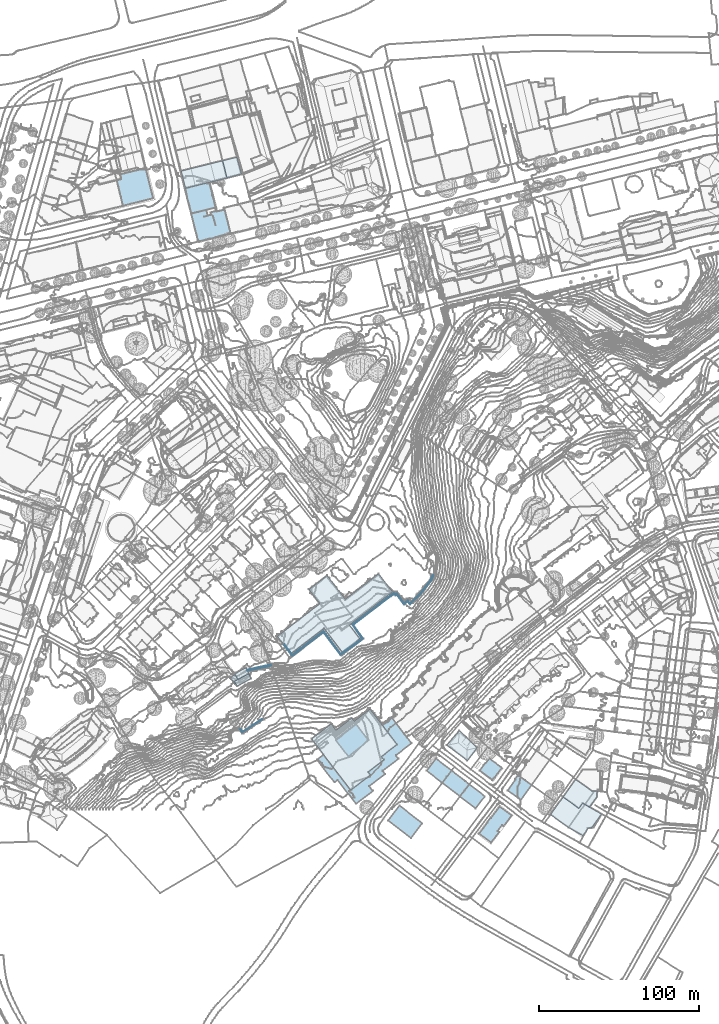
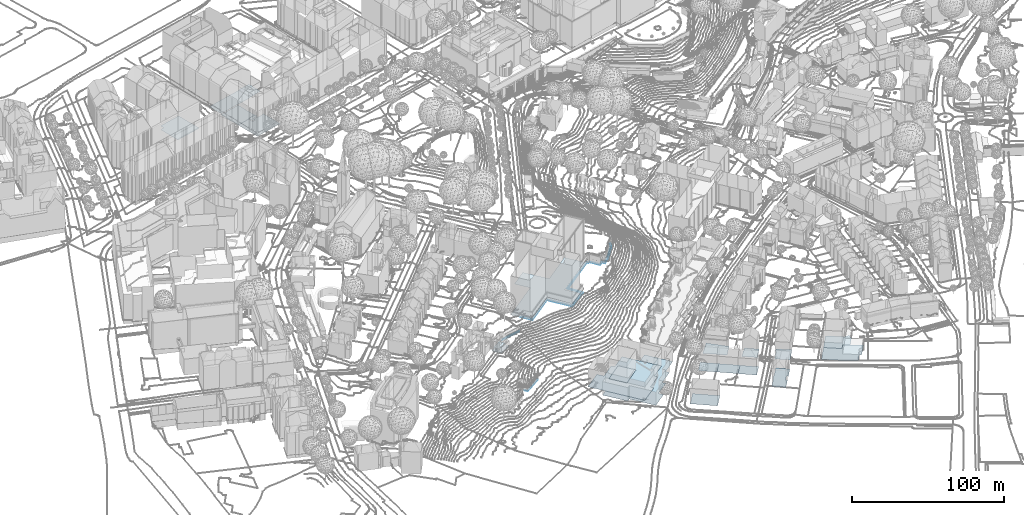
# Not in any storey, part 6 of 477: 23 footings.
"""IFC4 building model written with IfcOpenShell, lengths in metres."""

import ifcopenshell
import ifcopenshell.guid

model = None  # the IFC model being written
_history = None  # IfcOwnerHistory: only IFC2X3 demands one
_inside = {}  # id of a spatial element -> (the spatial element, [elements in it])
_under = {}  # id of a project, library or spatial element -> (it, [spatial elements below it])
_declared = {}  # id of a project -> (the project, [libraries it declares])
_typed = {}  # id of a type object -> (the type object, [elements of that type])
_made_of = {}  # id of a material, layer set ... -> (it, [elements and type objects made of it])


def new_model(schema):
    """Start an empty IFC model of exactly this schema.

    Asked for "IFC4X3", IfcOpenShell would pick the latest addendum, in which some entities
    have other attributes; the version numbers below select the first issue.
    IFC2X3 requires an IfcOwnerHistory on every rooted entity: one is made here for all.
    """
    global model, _history
    if schema == "IFC4X3":
        model = ifcopenshell.file(schema_version=(4, 3, 0, 0))
    else:
        model = ifcopenshell.file(schema=schema)
    _inside.clear()
    _under.clear()
    _declared.clear()
    _typed.clear()
    _made_of.clear()
    _history = None
    if model.schema == "IFC2X3":
        org = make("IfcOrganization", Name="unknown")
        user = make(
            "IfcPersonAndOrganization",
            ThePerson=make("IfcPerson", FamilyName="unknown"),
            TheOrganization=org,
        )
        app = make(
            "IfcApplication",
            ApplicationDeveloper=org,
            Version="unknown",
            ApplicationFullName="unknown",
            ApplicationIdentifier="unknown",
        )
        _history = make(
            "IfcOwnerHistory",
            OwningUser=user,
            OwningApplication=app,
            ChangeAction="ADDED",
            CreationDate=0,
        )
    return model


def make(cls, **values):
    """One entity of the class cls with the attributes given. An attribute that is None is left unset."""
    return model.create_entity(
        cls, **{name: value for name, value in values.items() if value is not None}
    )


def rooted(cls, **values):
    """An entity with a GlobalId (a new one), such as an element, a storey or a relation."""
    return make(cls, GlobalId=ifcopenshell.guid.new(), OwnerHistory=_history, **values)


def si_unit(unit_type, name, prefix=None):
    """IfcSIUnit, for example si_unit("LENGTHUNIT", "METRE", prefix="MILLI")."""
    return make("IfcSIUnit", UnitType=unit_type, Prefix=prefix, Name=name)


def assignment(units):
    """IfcUnitAssignment: the units of a project."""
    return None if units is None else make("IfcUnitAssignment", Units=units)


def point(xyz):
    """IfcCartesianPoint."""
    return None if xyz is None else make("IfcCartesianPoint", Coordinates=xyz)


def direction(xyz):
    """IfcDirection."""
    return None if xyz is None else make("IfcDirection", DirectionRatios=xyz)


def frame(location, z_axis=None, x_axis=None):
    """IfcAxis2Placement3D, a coordinate frame: its origin and axes. An axis left out is left unset."""
    return make(
        "IfcAxis2Placement3D",
        Location=point(location),
        Axis=direction(z_axis),
        RefDirection=direction(x_axis),
    )


def origin_with_axes():
    """The frame at (0, 0, 0) with the z axis (0, 0, 1) and the x axis (1, 0, 0) written out."""
    return frame((0.0, 0.0, 0.0), z_axis=(0.0, 0.0, 1.0), x_axis=(1.0, 0.0, 0.0))


def place(relative_to, where):
    """IfcLocalPlacement: puts the frame where relative to a parent placement (None: the world)."""
    return make(
        "IfcLocalPlacement", PlacementRelTo=relative_to, RelativePlacement=where
    )


def context(
    kind, dimensions, precision=None, world=None, true_north=None, identifier=None
):
    """IfcGeometricRepresentationContext, for example the 3D "Model" context."""
    return make(
        "IfcGeometricRepresentationContext",
        ContextIdentifier=identifier,
        ContextType=kind,
        CoordinateSpaceDimension=dimensions,
        Precision=precision,
        WorldCoordinateSystem=world,
        TrueNorth=true_north,
    )


def subcontext(parent, identifier, kind, view, scale=None):
    """IfcGeometricRepresentationSubContext, for example "Body" below "Model"."""
    return make(
        "IfcGeometricRepresentationSubContext",
        ContextIdentifier=identifier,
        ContextType=kind,
        ParentContext=parent,
        TargetScale=scale,
        TargetView=view,
    )


def project(units=None, contexts=None):
    """IfcProject with its units and contexts."""
    return rooted(
        "IfcProject",
        Name="project",
        RepresentationContexts=contexts,
        UnitsInContext=assignment(units),
    )


def spatial(cls, under=None, at=None, **own):
    """A site, building, storey or space (cls), placed at a placement, below another one or the project."""
    s = rooted(cls, ObjectPlacement=at, **own)
    if under is not None:
        _under.setdefault(under.id(), (under, []))[1].append(s)
    return s


def point_list(points):
    """IfcCartesianPointList2D or 3D."""
    cls = (
        "IfcCartesianPointList2D" if len(points[0]) == 2 else "IfcCartesianPointList3D"
    )
    return make(cls, CoordList=points)


def polygons(points, faces, closed=None, point_numbers=None):
    """IfcPolygonalFaceSet: a face is its outer loop, then its inner loops; points numbered from 1."""
    made = []
    for loops in faces:
        if len(loops) == 1:
            made.append(make("IfcIndexedPolygonalFace", CoordIndex=loops[0]))
        else:
            made.append(
                make(
                    "IfcIndexedPolygonalFaceWithVoids",
                    CoordIndex=loops[0],
                    InnerCoordIndices=loops[1:],
                )
            )
    return make(
        "IfcPolygonalFaceSet",
        Coordinates=point_list(points),
        Closed=closed,
        Faces=made,
        PnIndex=point_numbers,
    )


def shape(context_of_items, identifier, shape_type, items):
    """IfcShapeRepresentation: the items that make up one representation, for example the "Body"."""
    return make(
        "IfcShapeRepresentation",
        ContextOfItems=context_of_items,
        RepresentationIdentifier=identifier,
        RepresentationType=shape_type,
        Items=items,
    )


def made_of(thing, what):
    """Note that an element or type object is made of a material, layer set ...; save() writes the relation."""
    if what is not None:
        _made_of.setdefault(what.id(), (what, []))[1].append(thing)
    return thing


def element(
    cls,
    number,
    at=None,
    inside=None,
    cuts=None,
    type_object=None,
    material=None,
    context=None,
    identifier="Body",
    shape_type=None,
    held_by="IfcProductDefinitionShape",
    body=None,
    shapes=None,
    **own,
):
    """One element of the class cls, such as IfcWall. Its Tag is "e" and its number.

    at: its placement. inside: the storey or other place that contains it. cuts: it is an
    opening in that element (IfcRelVoidsElement). A single representation is given by context,
    identifier, shape_type and body (its items); several are given by shapes. held_by: the class
    of the entity that holds the representations. save() writes the other relations.
    """
    e = rooted(cls, Tag="e%d" % number, ObjectPlacement=at, **own)
    if body is not None:
        shapes = [shape(context, identifier, shape_type, body)]
    if shapes is not None:
        e.Representation = make(held_by, Representations=shapes)
    if inside is not None:
        _inside.setdefault(inside.id(), (inside, []))[1].append(e)
    if cuts is not None:
        rooted(
            "IfcRelVoidsElement", RelatingBuildingElement=cuts, RelatedOpeningElement=e
        )
    if type_object is not None:
        _typed.setdefault(type_object.id(), (type_object, []))[1].append(e)
    return made_of(e, material)


def aggregate(whole, parts):
    """IfcRelAggregates: a whole, such as a stair, and the parts it consists of."""
    return rooted("IfcRelAggregates", RelatingObject=whole, RelatedObjects=parts)


def save(model, path):
    """Write the relations noted so far, then the file.

    IfcRelAggregates (storeys below a building ...), IfcRelContainedInSpatialStructure (elements
    in a storey), IfcRelDefinesByType, IfcRelAssociatesMaterial and IfcRelDeclares: one each for
    every whole, place, type object, material and project.
    """
    for whole, parts in _under.values():
        aggregate(whole, parts)
    for where, things in _inside.values():
        rooted(
            "IfcRelContainedInSpatialStructure",
            RelatedElements=things,
            RelatingStructure=where,
        )
    for kind, things in _typed.values():
        rooted("IfcRelDefinesByType", RelatedObjects=things, RelatingType=kind)
    for what, things in _made_of.values():
        rooted("IfcRelAssociatesMaterial", RelatedObjects=things, RelatingMaterial=what)
    for by, libraries in _declared.values():
        rooted("IfcRelDeclares", RelatingContext=by, RelatedDefinitions=libraries)
    model.write(path)


model = new_model("IFC4")

# Units and contexts
model_context = context("Model", 3, precision=1e-05, world=origin_with_axes())
body_context = subcontext(model_context, "Body", "Model", "MODEL_VIEW")
ifc_project = project(units=[si_unit("AREAUNIT", "SQUARE_METRE"), si_unit("LENGTHUNIT", "METRE")], contexts=[model_context])

# Sites, building
site_1_placement = place(None, origin_with_axes())
site_1 = spatial("IfcSite", under=ifc_project, at=site_1_placement, Name="Topoexport Site")
site_2_placement = place(site_1_placement, origin_with_axes())
site_2 = spatial("IfcSite", under=site_1, at=site_2_placement, Name="TPX_BUILDINGS")
building_1_placement = place(site_2_placement, frame((351.9437320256, 10.5164160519, 499.6315), z_axis=(0.0, 0.0, 1.0), x_axis=(1.0, 0.0, 0.0)))
building_1 = spatial("IfcBuilding", under=site_2, at=building_1_placement, Name="Building 4", CompositionType="ELEMENT")

# Footing
footing_1_placement = place(None, frame((351.9437320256, 10.5164160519, 499.6315), z_axis=(0.0, 0.0, 1.0), x_axis=(1.0, 0.0, 0.0)))
element("IfcFooting", 1, at=footing_1_placement, inside=building_1, Name="Floor 0", context=body_context, shape_type="Tessellation", body=[
    polygons([(6.9640000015, 9.188500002, 0.0), (10.7760000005, 6.4600000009, 0.0), (5.0899999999, 7.0692999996, 0.0), (4.9010000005, 7.5439999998, 0.0), (6.3780000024, 9.6064999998, 0.0), (6.444000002, 9.5606000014, 0.0), (14.9299999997, 3.4853999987, 0.0), (8.1790000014, -5.8896000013, 0.0), (0.0, 0.0, 0.0), (4.7410000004, 7.3213, 0.0)], [[[1, 2, 3]], [[4, 5, 6]], [[4, 6, 1]], [[7, 8, 2]], [[9, 3, 8]], [[3, 10, 4]], [[4, 1, 3]], [[3, 2, 8]]]),
])

# Building
building_2_placement = place(site_2_placement, frame((313.8287320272, 39.0809160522, 500.1915), z_axis=(0.0, 0.0, 1.0), x_axis=(1.0, 0.0, 0.0)))
building_2 = spatial("IfcBuilding", under=site_2, at=building_2_placement, Name="Building 7", CompositionType="ELEMENT")

# Footing
footing_2_placement = place(None, frame((313.8287320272, 39.0809160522, 500.1915), z_axis=(0.0, 0.0, 1.0), x_axis=(1.0, 0.0, 0.0)))
element("IfcFooting", 2, at=footing_2_placement, inside=building_2, Name="Floor 0", context=body_context, shape_type="Tessellation", body=[
    polygons([(18.2580000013, -1.0645000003, 0.0), (18.9620000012, -1.7364000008, 0.0), (12.8499999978, -9.7138999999, 0.0), (14.7749999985, 2.2626999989, 0.0), (0.0, 0.0, 0.0), (12.0370000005, 4.8768999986, 0.0), (7.7670000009, 8.9550000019, 0.0)], [[[1, 2, 3]], [[4, 1, 3]], [[3, 5, 4]], [[4, 5, 6]], [[6, 5, 7]]]),
])

# Building
building_3_placement = place(site_2_placement, frame((207.679732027, 107.243916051, 526.7712), z_axis=(0.0, 0.0, 1.0), x_axis=(1.0, 0.0, 0.0)))
building_3 = spatial("IfcBuilding", under=site_2, at=building_3_placement, Name="Building 10", CompositionType="ELEMENT")

# Footing
footing_3_placement = place(None, frame((207.679732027, 107.243916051, 526.7712), z_axis=(0.0, 0.0, 1.0), x_axis=(1.0, 0.0, 0.0)))
element("IfcFooting", 3, at=footing_3_placement, inside=building_3, Name="Floor 0", context=body_context, shape_type="Tessellation", body=[
    polygons([(70.1979999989, 26.2774000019, -0.0001), (70.5199999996, 26.6036000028, -0.0001), (70.5579999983, 26.5547000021, -0.0001), (70.1600000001, 26.327200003, -0.0001), (72.0789999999, 27.8008000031, -0.0001), (61.7960000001, 37.9942000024, -0.0001), (63.3579999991, 39.193400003, -0.0001), (61.4549999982, 37.7314999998, -0.0001), (55.8610000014, 33.433600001, -0.0001), (64.6000000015, 22.0567000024, -0.0001), (61.4230000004, 37.7735000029, -0.0001), (64.3000000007, 21.7422000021, -0.0001), (64.6409999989, 22.0039000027, -0.0001), (52.7609999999, 12.8692000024, -0.0001), (52.4279999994, 12.6123000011, -0.0001), (52.379999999, 12.6749000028, -0.0001), (58.7029999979, 17.4375, -0.0001), (58.3619999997, 17.1758000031, -0.0001), (58.6579999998, 17.496100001, -0.0001), (55.5199999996, 33.1709000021, -0.0001), (64.2589999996, 21.7950000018, -0.0001), (49.9210000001, 28.8692000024, -0.0001), (58.3169999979, 17.2344000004, -0.0001), (52.7129999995, 12.9317000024, -0.0001), (43.9780000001, 24.3008000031, -0.0001), (43.6449999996, 24.0450000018, -0.0001), (46.7410000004, 8.3438000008, -0.0001), (42.5669999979, 23.2168000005, -0.0001), (61.7639999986, 38.0362000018, -0.0001), (49.5799999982, 28.6064999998, -0.0001), (49.8920000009, 28.9053000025, -0.0001), (55.4890000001, 33.2110000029, -0.0001), (55.8299999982, 33.4737000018, -0.0001), (49.550999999, 28.6436000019, -0.0001), (43.6169999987, 24.0811000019, -0.0001), (43.9499999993, 24.3370000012, -0.0001), (32.4160000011, 36.5752000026, 0.0), (32.6779999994, 36.2334000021, 0.0), (32.3229999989, 36.5030000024, 0.0), (41.4869999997, 24.6192000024, -0.0001), (41.5639999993, 24.6788000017, -0.0001), (41.8269999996, 24.3370000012, -0.0001), (37.256000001, 30.2803000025, 0.0), (36.9079999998, 30.5567000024, 0.0), (36.9930000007, 30.6231000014, 0.0), (41.75, 24.2774000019, -0.0001), (26.550999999, 20.4101999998, 0.0), (46.4499999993, 8.0157000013, -0.0001), (46.3999999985, 8.0821000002, -0.0001), (46.7910000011, 8.2774000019, -0.0001), (45.1660000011, 7.0274000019, -0.0001), (29.2599999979, 4.9786000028, -0.0001), (45.379999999, 7.192400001, -0.0001), (45.3289999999, 7.2588, -0.0001), (26.5260000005, 20.5206000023, 0.0), (51.7039999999, -1.4736000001, -0.0001), (40.7190000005, -9.9217999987, -0.0001), (25.4849999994, 19.5899000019, 0.0), (25.1440000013, 19.3282000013, 0.0), (19.5390000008, 15.0196000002, 0.0), (8.4690000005, -11.0126999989, -0.0001), (7.6369999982, 5.871100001, 0.0), (19.1979999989, 14.7578999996, 0.0), (13.5839999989, 10.4415000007, 0.0), (13.2509999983, 10.1856000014, 0.0), (7.2879999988, 5.6026000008, 0.0), (13.1909999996, 10.264700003, 0.0), (7.5779999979, 5.9483000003, 0.0), (1.6979999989, 1.3047000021, 0.0), (25.0810000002, 19.4101999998, 0.0), (19.4769999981, 15.0997000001, 0.0), (37.1710000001, 30.2159000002, 0.0), (26.487999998, 20.4922000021, 0.0), (25.4219999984, 19.6719000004, 0.0), (32.5859999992, 36.1631000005, 0.0), (19.7520000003, 29.3311000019, 0.0), (31.1119999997, 38.0743000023, 0.0), (1.3570000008, 1.0430000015, 0.0), (1.6400000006, 1.379900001, 0.0), (1.2989999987, 1.1182000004, 0.0), (0.0, 0.0, 0.0), (19.1359999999, 14.8379000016, 0.0), (13.5229999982, 10.5206000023, 0.0), (7.2289999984, 5.6788000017, 0.0)], [[[1, 2, 3]], [[2, 1, 4]], [[5, 6, 7]], [[8, 2, 4]], [[8, 4, 9]], [[9, 4, 10]], [[8, 6, 2]], [[2, 6, 5]], [[8, 11, 6]], [[12, 10, 13]], [[14, 15, 16]], [[17, 18, 19]], [[20, 21, 22]], [[10, 21, 20]], [[22, 21, 19]], [[19, 18, 23]], [[23, 24, 25]], [[19, 23, 22]], [[14, 16, 24]], [[24, 16, 26]], [[27, 28, 16]], [[10, 12, 21]], [[10, 20, 9]], [[6, 11, 29]], [[30, 22, 23]], [[23, 25, 30]], [[22, 30, 31]], [[32, 33, 20]], [[20, 33, 9]], [[31, 30, 34]], [[26, 35, 36]], [[36, 25, 26]], [[16, 28, 26]], [[37, 38, 39]], [[40, 41, 42]], [[43, 44, 45]], [[40, 42, 46]], [[47, 46, 28]], [[25, 24, 26]], [[48, 49, 50]], [[51, 52, 47]], [[53, 51, 54]], [[54, 28, 49]], [[27, 49, 28]], [[40, 46, 47]], [[27, 50, 49]], [[54, 51, 47]], [[54, 47, 28]], [[47, 55, 40]], [[56, 57, 51]], [[58, 52, 59]], [[58, 47, 52]], [[52, 60, 59]], [[57, 52, 51]], [[52, 61, 62]], [[63, 60, 52]], [[64, 63, 52]], [[65, 52, 62]], [[62, 61, 66]], [[65, 67, 64]], [[65, 64, 52]], [[66, 68, 62]], [[69, 66, 61]], [[59, 70, 58]], [[60, 63, 71]], [[72, 55, 44]], [[72, 40, 55]], [[55, 47, 73]], [[58, 70, 74]], [[55, 75, 44]], [[76, 77, 39]], [[39, 75, 76]], [[76, 75, 55]], [[38, 75, 39]], [[72, 44, 43]], [[69, 78, 79]], [[69, 61, 78]], [[80, 79, 78]], [[81, 78, 61]], [[63, 82, 71]], [[83, 64, 67]], [[66, 84, 68]]]),
])

# Building
building_4_placement = place(site_2_placement, frame((277.0167320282, -8.246283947, 501.3544), z_axis=(0.0, 0.0, 1.0), x_axis=(1.0, 0.0, 0.0)))
building_4 = spatial("IfcBuilding", under=site_2, at=building_4_placement, Name="Building 11", CompositionType="ELEMENT")

# Footing
footing_4_placement = place(None, frame((277.0167320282, -8.246283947, 501.3544), z_axis=(0.0, 0.0, 1.0), x_axis=(1.0, 0.0, 0.0)))
element("IfcFooting", 4, at=footing_4_placement, inside=building_4, Name="Floor 0", context=body_context, shape_type="Tessellation", body=[
    polygons([(7.1789999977, 9.2978999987, 0.0), (21.432, -1.7080000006, 0.0), (0.0, 0.0, 0.0), (14.3549999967, -11.0839999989, 0.0)], [[[1, 2, 3]], [[4, 3, 2]]]),
])

# Building
building_5_placement = place(site_2_placement, frame((334.0767320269, -16.4571839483, 500.2114), z_axis=(0.0, 0.0, 1.0), x_axis=(1.0, 0.0, 0.0)))
building_5 = spatial("IfcBuilding", under=site_2, at=building_5_placement, Name="Building 12", CompositionType="ELEMENT")

# Footing
footing_5_placement = place(None, frame((334.0767320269, -16.4571839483, 500.2114), z_axis=(0.0, 0.0, 1.0), x_axis=(1.0, 0.0, 0.0)))
element("IfcFooting", 5, at=footing_5_placement, inside=building_5, Name="Floor 0", context=body_context, shape_type="Tessellation", body=[
    polygons([(12.4439999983, 1.0428999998, 0.0), (7.3869999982, -5.6142999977, 0.0), (0.0, 0.0, 0.0), (11.4890000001, 1.7675999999, 0.0), (5.4149999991, 7.1259000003, 0.0), (14.2479999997, 5.3993999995, 0.0), (7.4239999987, 9.7705000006, 0.0), (5.175999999, 7.307599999, 0.0), (15.2030000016, 4.6728000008, 0.0), (12.7949999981, 16.8388000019, 0.0), (20.2369999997, 11.2978000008, 0.0), (12.8440000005, 16.9043000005, 0.0), (7.1849999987, 9.9530999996, 0.0)], [[[1, 2, 3]], [[4, 5, 6]], [[1, 3, 4]], [[5, 7, 6]], [[5, 4, 3]], [[5, 8, 7]], [[9, 10, 11]], [[6, 10, 9]], [[6, 7, 10]], [[12, 11, 10]], [[8, 13, 7]]]),
])

# Building
building_6_placement = place(site_2_placement, frame((211.8297320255, 101.9383160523, 526.7541), z_axis=(0.0, 0.0, 1.0), x_axis=(1.0, 0.0, 0.0)))
building_6 = spatial("IfcBuilding", under=site_2, at=building_6_placement, Name="Building 18", CompositionType="ELEMENT")

# Footings
footing_6_placement = place(None, frame((211.8297320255, 101.9383160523, 526.7541), z_axis=(0.0, 0.0, 1.0), x_axis=(1.0, 0.0, 0.0)))
element("IfcFooting", 6, at=footing_6_placement, inside=building_6, Name="Floor 16", context=body_context, shape_type="Tessellation", body=[
    polygons([(93.6900000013, 43.4589999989, 0.0), (91.6669999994, 40.2412, 0.0), (93.1030000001, 43.7021000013, 0.0), (92.2200000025, 39.9149999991, 0.0), (85.1559999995, 32.0498000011, 0.0), (85.6270000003, 31.621100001, 0.0), (79.0080000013, 26.1094000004, 0.0), (78.9220000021, 25.1425999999, 0.0), (77.5540000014, 27.0381000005, 0.0), (77.6790000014, 27.9521000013, 0.0), (75.3410000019, 26.0830000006, 0.0), (70.7380000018, 31.3691000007, 0.0), (70.8990000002, 32.2324000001, 0.0), (69.9759999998, 31.6328000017, 0.0), (69.8550000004, 30.7969000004, 0.0), (68.9820000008, 31.8183000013, 0.0), (43.5920000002, 12.5654000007, 0.0), (69.0769999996, 32.6875, 0.0), (75.2160000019, 25.1708999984, 0.0), (49.7470000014, 3.6680000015, 0.0), (48.870000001, 3.8192999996, 0.0), (35.5850000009, -6.5419999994, 0.0), (35.7190000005, -5.6611000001, 0.0), (42.7239999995, 12.7030999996, 0.0), (24.8300000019, 7.7958999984, 0.0), (5.3460000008, -6.2685999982, 0.0), (24.9539999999, 8.6893999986, 0.0), (5.2149999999, -7.1689999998, 0.0), (0.0, 0.0, 0.0), (0.5140000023, 0.3740000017, 0.0)], [[[1, 2, 3]], [[1, 4, 2]], [[5, 6, 7]], [[5, 2, 6]], [[2, 4, 6]], [[7, 6, 8]], [[9, 10, 7]], [[8, 9, 7]], [[11, 12, 13]], [[14, 15, 16]], [[16, 17, 18]], [[18, 14, 16]], [[10, 9, 11]], [[13, 12, 14]], [[15, 14, 12]], [[12, 11, 19]], [[11, 9, 19]], [[20, 21, 17]], [[20, 22, 21]], [[23, 21, 22]], [[18, 17, 24]], [[24, 17, 21]], [[25, 26, 27]], [[23, 25, 27]], [[28, 29, 26]], [[26, 25, 28]], [[30, 26, 29]], [[25, 23, 22]]]),
])
footing_7_placement = place(None, frame((211.8297320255, 101.9383160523, 526.7541), z_axis=(0.0, 0.0, 1.0), x_axis=(1.0, 0.0, 0.0)))
element("IfcFooting", 7, at=footing_7_placement, inside=building_6, Name="Floor 17", context=body_context, shape_type="Tessellation", body=[
    polygons([(-23.0159999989, -15.6611000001, -0.6119), (-7.8469999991, -13.1435999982, -0.6119), (-22.8649999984, -16.3652999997, -0.6119), (-7.9979999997, -12.4395000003, -0.6119)], [[[1, 2, 3]], [[2, 1, 4]]]),
])
footing_8_placement = place(None, frame((211.8297320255, 101.9383160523, 526.7541), z_axis=(0.0, 0.0, 1.0), x_axis=(1.0, 0.0, 0.0)))
element("IfcFooting", 8, at=footing_8_placement, inside=building_6, Name="Floor 18", context=body_context, shape_type="Tessellation", body=[
    polygons([(-13.8379999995, -46.5898999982, -17.0634), (-13.6510000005, -46.8759999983, -17.0634), (-26.0409999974, -54.9580000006, -17.0634)], [[[1, 2, 3]]]),
])
footing_9_placement = place(None, frame((211.8297320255, 101.9383160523, 526.7541), z_axis=(0.0, 0.0, 1.0), x_axis=(1.0, 0.0, 0.0)))
element("IfcFooting", 9, at=footing_9_placement, inside=building_6, Name="Floor 19", context=body_context, shape_type="Tessellation", body=[
    polygons([(-26.367999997, -53.6319000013, -17.0634), (-26.6359999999, -53.8544999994, -17.0634), (-27.7089999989, -52.5527999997, -17.0633), (-25.9169999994, -54.4677999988, -17.0634), (-13.8379999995, -46.5898999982, -17.0634), (-26.0409999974, -54.9580000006, -17.0634)], [[[1, 2, 3]], [[1, 4, 2]], [[5, 6, 4]], [[6, 2, 4]]]),
])

# Building
building_7_placement = place(site_2_placement, frame((386.5667320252, 6.5633160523, 499.0235), z_axis=(0.0, 0.0, 1.0), x_axis=(1.0, 0.0, 0.0)))
building_7 = spatial("IfcBuilding", under=site_2, at=building_7_placement, Name="Building 20", CompositionType="ELEMENT")

# Footing
footing_10_placement = place(None, frame((386.5667320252, 6.5633160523, 499.0235), z_axis=(0.0, 0.0, 1.0), x_axis=(1.0, 0.0, 0.0)))
element("IfcFooting", 10, at=footing_10_placement, inside=building_7, Name="Floor 0", context=body_context, shape_type="Tessellation", body=[
    polygons([(7.8980000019, 11.0351000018, 0.0), (15.012000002, 5.9472000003, 0.0), (0.0, 0.0, 0.0), (12.2230000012, -3.8456999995, 0.0), (7.1210000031, -5.0947000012, 0.0), (9.9030000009, -7.0859999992, 0.0), (18.1740000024, 3.6854999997, 0.0), (21.393000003, 3.6981999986, 0.0), (21.2810000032, 0.3359000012, 0.0), (16.7939999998, -6.4395000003, 0.0), (16.6450000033, -6.1513999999, 0.0), (16.8920000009, -6.3027999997, 0.0)], [[[1, 2, 3]], [[2, 4, 3]], [[5, 4, 6]], [[3, 4, 5]], [[2, 7, 4]], [[8, 9, 7]], [[10, 4, 11]], [[11, 12, 10]], [[9, 11, 4]], [[4, 7, 9]]]),
])

# Building
building_8_placement = place(site_2_placement, frame((378.6967320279, -4.4298839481, 499.0235), z_axis=(0.0, 0.0, 1.0), x_axis=(1.0, 0.0, 0.0)))
building_8 = spatial("IfcBuilding", under=site_2, at=building_8_placement, Name="Building 21", CompositionType="ELEMENT")

# Footing
footing_11_placement = place(None, frame((378.6967320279, -4.4298839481, 499.0235), z_axis=(0.0, 0.0, 1.0), x_axis=(1.0, 0.0, 0.0)))
element("IfcFooting", 11, at=footing_11_placement, inside=building_8, Name="Floor 0", context=body_context, shape_type="Tessellation", body=[
    polygons([(31.9169999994, 0.3066999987, 0.0), (25.7539999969, -8.3183000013, 0.0), (29.0299999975, 2.0751999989, 0.0), (23.425999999, -8.5088, 0.0), (21.5539999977, 6.3183999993, 0.0), (17.7729999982, 3.9072000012, 0.0), (20.0929999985, 7.1475000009, 0.0), (7.8699999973, 10.9932000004, 0.0), (7.1319999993, -5.0986000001, 0.0), (24.1999999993, -8.4648000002, 0.0), (11.6140000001, -8.3007999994, 0.0), (22.2249999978, -10.6083999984, 0.0), (20.3409999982, -13.2430999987, 0.0), (0.0, 0.0, 0.0), (11.3049999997, -8.0790999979, 0.0)], [[[1, 2, 3]], [[4, 5, 3]], [[4, 6, 5]], [[5, 6, 7]], [[8, 6, 9]], [[10, 3, 2]], [[4, 11, 6]], [[12, 11, 4]], [[12, 13, 11]], [[9, 14, 8]], [[6, 11, 15]], [[9, 6, 15]], [[10, 4, 3]]]),
])

# Building
building_9_placement = place(site_2_placement, frame((310.929732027, 15.368916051, 513.3392), z_axis=(0.0, 0.0, 1.0), x_axis=(1.0, 0.0, 0.0)))
building_9 = spatial("IfcBuilding", under=site_2, at=building_9_placement, Name="Building 25", CompositionType="ELEMENT")

# Footing
footing_12_placement = place(None, frame((310.929732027, 15.368916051, 513.3392), z_axis=(0.0, 0.0, 1.0), x_axis=(1.0, 0.0, 0.0)))
element("IfcFooting", 12, at=footing_12_placement, inside=building_9, Name="Floor 0", context=body_context, shape_type="Tessellation", body=[
    polygons([(13.9970000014, -4.753899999, -12.7678), (11.0769999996, -8.5653999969, -12.7678), (0.0, 0.0, -12.7677), (10.8709999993, 3.7735000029, -12.7678), (14.2729999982, 1.1446000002, -12.7678), (16.938000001, -0.9149999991, -12.7678), (2.9210000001, 3.8106000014, -12.7677), (5.8610000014, 7.6456000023, -12.7677)], [[[1, 2, 3]], [[4, 5, 1]], [[1, 5, 6]], [[7, 4, 1]], [[4, 7, 8]], [[1, 3, 7]]]),
])

# Building
building_10_placement = place(site_2_placement, frame((322.0067320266, 6.8035160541, 500.5714), z_axis=(0.0, 0.0, 1.0), x_axis=(1.0, 0.0, 0.0)))
building_10 = spatial("IfcBuilding", under=site_2, at=building_10_placement, Name="Building 26", CompositionType="ELEMENT")

# Footing
footing_13_placement = place(None, frame((322.0067320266, 6.8035160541, 500.5714), z_axis=(0.0, 0.0, 1.0), x_axis=(1.0, 0.0, 0.0)))
element("IfcFooting", 13, at=footing_13_placement, inside=building_10, Name="Floor 0", context=body_context, shape_type="Tessellation", body=[
    polygons([(9.7160000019, -7.5137000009, 0.0), (2.9200000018, 3.811499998, 0.0), (15.6110000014, 0.1103999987, 0.0), (5.8610000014, 7.6503999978, 0.0), (0.0, 0.0, 0.0)], [[[1, 2, 3]], [[4, 3, 2]], [[2, 1, 5]]]),
])

# Building
building_11_placement = place(site_2_placement, frame((301.1767320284, 22.9119160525, 500.5715), z_axis=(0.0, 0.0, 1.0), x_axis=(1.0, 0.0, 0.0)))
building_11 = spatial("IfcBuilding", under=site_2, at=building_11_placement, Name="Building 27", CompositionType="ELEMENT")

# Footing
footing_14_placement = place(None, frame((301.1767320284, 22.9119160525, 500.5715), z_axis=(0.0, 0.0, 1.0), x_axis=(1.0, 0.0, 0.0)))
element("IfcFooting", 14, at=footing_14_placement, inside=building_11, Name="Floor 0", context=body_context, shape_type="Tessellation", body=[
    polygons([(9.7529999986, -7.5430000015, 0.0), (0.0, 0.0, 0.0), (12.6739999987, -3.7324000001, 0.0), (5.8659999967, 7.5850000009, 0.0), (15.6140000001, 0.1026000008, 0.0)], [[[1, 2, 3]], [[3, 4, 5]], [[4, 3, 2]]]),
])

# Building
building_12_placement = place(site_2_placement, frame((334.417732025, 23.1512160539, 500.1795), z_axis=(0.0, 0.0, 1.0), x_axis=(1.0, 0.0, 0.0)))
building_12 = spatial("IfcBuilding", under=site_2, at=building_12_placement, Name="Building 28", CompositionType="ELEMENT")

# Footing
footing_15_placement = place(None, frame((334.417732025, 23.1512160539, 500.1795), z_axis=(0.0, 0.0, 1.0), x_axis=(1.0, 0.0, 0.0)))
element("IfcFooting", 15, at=footing_15_placement, inside=building_12, Name="Floor 0", context=body_context, shape_type="Tessellation", body=[
    polygons([(12.5370000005, -0.1338, 0.0), (11.0450000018, -2.0791000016, 0.0), (10.7310000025, 3.9375, 0.0), (13.8380000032, 1.5643999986, 0.0), (3.8630000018, 4.5702999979, 0.0), (8.2170000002, 5.8574000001, 0.0), (6.0840000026, 7.4862999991, 0.0), (2.5240000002, 3.3055999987, 0.0), (3.6270000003, 4.75, 0.0), (4.0270000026, -3.0752000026, 0.0), (9.7310000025, -3.7959000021, 0.0), (8.8570000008, -4.9356000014, 0.0), (7.6610000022, -5.8506000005, 0.0), (7.7160000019, -5.8936000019, 0.0), (7.9730000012, -6.0899000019, 0.0), (0.0, 0.0, 0.0)], [[[1, 2, 3]], [[3, 4, 1]], [[3, 5, 6]], [[6, 5, 7]], [[8, 9, 5]], [[5, 3, 10]], [[10, 8, 5]], [[3, 2, 10]], [[11, 12, 13]], [[13, 12, 14]], [[12, 15, 14]], [[11, 13, 10]], [[16, 8, 10]], [[2, 11, 10]]]),
])

# Building
building_13_placement = place(site_2_placement, frame((178.2397320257, 81.0750160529, 523.9414), z_axis=(0.0, 0.0, 1.0), x_axis=(1.0, 0.0, 0.0)))
building_13 = spatial("IfcBuilding", under=site_2, at=building_13_placement, Name="Building 64", CompositionType="ELEMENT")

# Footing
footing_16_placement = place(None, frame((178.2397320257, 81.0750160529, 523.9414), z_axis=(0.0, 0.0, 1.0), x_axis=(1.0, 0.0, 0.0)))
element("IfcFooting", 16, at=footing_16_placement, inside=building_13, Name="Floor 0", context=body_context, shape_type="Tessellation", body=[
    polygons([(0.2149999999, 0.1563000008, 0.0), (0.1559999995, 0.2373000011, 0.0), (2.7190000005, 2.1699000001, 0.0), (0.8220000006, -0.7118999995, 0.0), (0.4739999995, -0.629900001, 0.0), (0.0, 0.0, 0.0), (1.9979999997, -2.3300999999, 0.0), (2.5390000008, -2.120099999, 0.0), (4.9600000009, -0.8066000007, 0.0), (3.3790000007, -3.6669999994, 0.0), (2.6180000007, -3.1552999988, 0.0), (1.9710000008, -2.6182000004, 0.0), (2.4609999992, -3.2695000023, 0.0), (3.125, -3.8524999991, 0.0), (12.3430000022, 1.7558999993, 0.434), (11.438000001, 2.7109000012, 0.434), (10.9700000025, 4.378899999, 0.434), (12.0439999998, 1.5938000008, 0.434), (10.9450000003, 4.4257999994, 0.434), (4.9600000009, -0.8066000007, 0.434), (9.8520000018, 6.5137000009, 0.434), (3.4539999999, 2.7236000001, 0.434), (3.2140000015, 3.0429999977, 0.434), (2.7190000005, 2.1699000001, 0.434), (3.3790000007, -3.6669999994, -0.227), (2.5390000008, -2.120099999, -0.227), (3.432, -3.6279000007, -0.227), (11.438000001, 2.7109000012, -0.227), (13.0890000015, -0.3300999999, -0.227), (4.2340000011, -5.1387000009, -0.227)], [[[1, 2, 3]], [[3, 4, 1]], [[1, 5, 6]], [[7, 4, 8]], [[4, 5, 1]], [[3, 8, 4]], [[8, 3, 9]], [[10, 11, 8]], [[12, 11, 13]], [[11, 10, 14]], [[11, 12, 7]], [[7, 8, 11]], [[15, 16, 17]], [[15, 18, 16]], [[19, 17, 20]], [[21, 19, 20]], [[16, 20, 17]], [[22, 21, 20]], [[21, 22, 23]], [[20, 24, 22]], [[25, 26, 27]], [[28, 29, 27]], [[27, 26, 28]], [[29, 30, 27]]]),
])

# Building
building_14_placement = place(site_2_placement, frame((287.111732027, 46.2742160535, 500.3625), z_axis=(0.0, 0.0, 1.0), x_axis=(1.0, 0.0, 0.0)))
building_14 = spatial("IfcBuilding", under=site_2, at=building_14_placement, Name="Building 65", CompositionType="ELEMENT")

# Footings
footing_17_placement = place(None, frame((287.111732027, 46.2742160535, 500.3625), z_axis=(0.0, 0.0, 1.0), x_axis=(1.0, 0.0, 0.0)))
element("IfcFooting", 17, at=footing_17_placement, inside=building_14, Name="Floor 1", context=body_context, shape_type="Tessellation", body=[
    polygons([(-33.4110000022, -35.375, 0.271), (-22.550999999, -24.0175999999, 0.271), (-21.1009999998, -25.9004000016, 0.271), (-14.2050000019, -14.4053000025, 0.271), (-12.6649999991, -16.4072000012, 0.271), (-42.6979999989, 2.1601999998, 0.2711), (-13.7170000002, 5.3818999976, 0.271), (-4.3040000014, -6.7851000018, 0.271), (-13.6860000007, 5.4052999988, 0.271), (-31.2890000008, 7.7841999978, 0.2711), (-50.3640000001, -13.1611000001, 0.271), (-50.4539999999, -13.2303999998, 0.271), (-57.9750000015, -3.2422000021, 0.2711), (-45.7670000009, 6.1103999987, 0.2711), (-42.7219999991, 2.1405999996, 0.2711), (-21.3920000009, 15.3955000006, 0.2711), (-32.8040000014, 9.7626999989, 0.2711)], [[[1, 2, 3]], [[2, 4, 5]], [[2, 6, 4]], [[4, 7, 8]], [[9, 8, 7]], [[4, 10, 7]], [[1, 11, 2]], [[11, 1, 12]], [[13, 14, 15]], [[15, 11, 13]], [[6, 2, 15]], [[7, 10, 16]], [[17, 10, 6]], [[6, 10, 4]], [[15, 2, 11]]]),
])
footing_18_placement = place(None, frame((287.111732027, 46.2742160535, 500.3625), z_axis=(0.0, 0.0, 1.0), x_axis=(1.0, 0.0, 0.0)))
element("IfcFooting", 18, at=footing_18_placement, inside=building_14, Name="Floor 2", context=body_context, shape_type="Tessellation", body=[
    polygons([(-42.6830000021, -4.2099000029, 1.8109), (-22.0850000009, -4.2148000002, 1.8109), (-34.8139999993, -14.2206999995, 1.8109), (-29.9539999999, 5.7969000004, 1.8109)], [[[1, 2, 3]], [[2, 1, 4]]]),
])
footing_19_placement = place(None, frame((287.111732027, 46.2742160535, 500.3625), z_axis=(0.0, 0.0, 1.0), x_axis=(1.0, 0.0, 0.0)))
element("IfcFooting", 19, at=footing_19_placement, inside=building_14, Name="Floor 3", context=body_context, shape_type="Tessellation", body=[
    polygons([(-13.5780000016, 5.2626999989, 0.271), (-7.5949999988, 9.8671999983, 0.271), (-4.3040000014, -6.7851000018, 0.271), (-14.2050000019, -14.4053000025, 0.271), (-5.0399999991, -13.5381000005, 0.271), (-12.6649999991, -16.4072000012, 0.271), (-13.3770000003, -23.3603000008, 0.271), (-22.550999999, -24.0175999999, 0.271), (4.6689999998, -6.067400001, 0.271), (-54.4660000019, -16.3104999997, 0.271), (-41.5800000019, -29.0331999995, 0.271), (-43.5249999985, -30.5293000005, 0.271), (-50.4539999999, -13.2303999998, 0.271), (-41.4739999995, -29.0820000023, 0.271), (-41.5170000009, -29.1152000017, 0.271), (-33.4110000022, -35.375, 0.271), (-30.0280000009, -43.9521000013, 0.271), (-4.9169999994, -13.6992000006, 0.271), (-5.0069999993, -13.7685000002, 0.271), (-3.4820000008, -15.7529000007, 0.271), (-21.1009999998, -25.9004000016, 0.271), (-21.7740000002, -32.9541000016, 0.271), (-13.3530000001, -23.3993999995, 0.271), (-11.8669999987, -25.3359000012, 0.271), (-19.5309999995, -35.8729999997, 0.271)], [[[1, 2, 3]], [[4, 3, 5]], [[6, 7, 8]], [[6, 4, 5]], [[9, 3, 2]], [[10, 11, 12]], [[10, 13, 11]], [[14, 15, 11]], [[14, 16, 17]], [[11, 13, 14]], [[13, 16, 14]], [[5, 18, 19]], [[5, 3, 9]], [[6, 19, 20]], [[6, 20, 7]], [[21, 8, 7]], [[16, 21, 22]], [[21, 7, 23]], [[21, 23, 24]], [[22, 21, 24]], [[17, 22, 25]], [[17, 16, 22]], [[19, 6, 5]]]),
])

# Building
building_15_placement = place(site_2_placement, frame((153.8417320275, 371.7576160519, 556.9797), z_axis=(0.0, 0.0, 1.0), x_axis=(1.0, 0.0, 0.0)))
building_15 = spatial("IfcBuilding", under=site_2, at=building_15_placement, Name="Building 166", CompositionType="ELEMENT")

# Footing
footing_20_placement = place(None, frame((153.8417320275, 371.7576160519, 556.9797), z_axis=(0.0, 0.0, 1.0), x_axis=(1.0, 0.0, 0.0)))
element("IfcFooting", 20, at=footing_20_placement, inside=building_15, Name="Floor 0", context=body_context, shape_type="Tessellation", body=[
    polygons([(12.1769999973, 0.7177999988, -19.1582), (9.4499999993, 2.3037, -19.1582), (15.2799999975, 2.753899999, -19.1582), (9.4459999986, 2.3213, -19.1582), (15.4069999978, 3.8672000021, -19.1582), (15.5659999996, 1.6026000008, -19.1582), (12.5519999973, -0.7265000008, -19.1582), (10.3819999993, -1.2910000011, -19.1582), (15.5419999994, 3.3594000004, -19.1582), (15.5040000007, 3.3447000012, -19.1582), (15.4349999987, 3.7608000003, -19.1582), (15.6259999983, 2.8643000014, -19.1582), (5.2039999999, -17.3515000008, -19.7052), (4.6579999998, -17.5390000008, -19.7052), (4.186999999, -16.7285000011, -19.7052), (5.2159999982, -17.4013999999, -19.7052), (12.430999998, -15.7313999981, -19.7052), (11.6699999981, -15.9179999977, -19.7052), (11.629999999, -15.7588, -19.7052), (13.4289999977, -15.4891999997, -19.7052), (13.9019999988, -15.3125, -19.7052), (13.8819999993, -15.3779000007, -19.7052), (9.3399999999, -16.2617000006, -19.7052), (9.3559999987, -16.3222000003, -19.7052), (3.4010000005, -13.1611000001, -19.7052), (10.693, -15.9287, -19.7052), (3.7430000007, -14.5077999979, -19.7052), (10.7119999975, -15.9862999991, -19.7052), (10.9639999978, -15.9237999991, -19.7052), (10.381000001, -1.2910000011, -19.7052), (2.7879999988, -11.0282999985, -19.7052), (15.6919999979, -14.8691000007, -19.7052), (12.5519999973, -0.7265000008, -19.7052), (17.9230000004, -14.2128999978, -19.7052), (14.9120000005, -15.061499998, -19.7052), (16.873999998, -14.6356999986, -19.7052), (15.743999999, -14.9169999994, -19.7052), (17.9609999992, -14.3662, -19.7052), (17.7139999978, -14.4266999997, -19.7052), (18.9069999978, -13.9686999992, -19.7052), (18.8829999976, -13.8847000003, -19.7052), (20.1400000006, -13.5771000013, -19.7052), (22.0779999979, -13.1024999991, -19.7052), (20.1659999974, -13.6572000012, -19.7052), (22.0969999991, -13.1766999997, -19.7052), (23.436999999, -12.7606999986, -19.7052), (24.1449999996, -12.6699000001, -19.7052), (23.4609999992, -12.8387999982, -19.7052), (24.3330000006, -12.6229999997, -19.7052), (24.7939999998, -12.6220999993, -19.7052), (24.3640000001, -12.7333999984, -19.7052), (23.1359999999, -6.0790999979, -19.7052), (4.3519999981, -17.615199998, -19.7052), (2.5119999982, -10.1688999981, -19.7052), (2.574000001, -10.1543000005, -19.7052), (3.318, -13.1854999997, -19.7052), (3.6499999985, -14.5399999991, -19.7052), (2.7280000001, -11.0429999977, -19.7052), (0.0979999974, -0.4052999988, -19.7052), (0.0, 0.0, -19.7052), (0.1779999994, -0.3896000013, -19.7052), (3.5769999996, 0.8720999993, -19.7052), (6.5949999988, 1.5811000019, -19.7052), (8.9199999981, 2.1757999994, -19.7052), (23.0189999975, -5.5918000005, -19.7052), (22.2689999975, -2.6387000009, -19.7052), (16.0089999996, 1.3584000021, -19.7052), (21.5390000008, 0.1933999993, -19.7052), (15.5659999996, 1.6015999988, -19.7052), (12.1769999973, 0.7177999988, -19.7052), (15.9199999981, 1.6953000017, -19.7052), (20.5639999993, 2.8936000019, -19.7052), (20.8440000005, 2.9658000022, -19.7052), (20.6499999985, 2.7851999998, -19.7052), (20.5949999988, 2.7637000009, -19.7052), (20.7109999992, 2.5362000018, -19.7052), (9.4499999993, 2.3037, -19.7052), (4.1380000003, -16.7412, -19.7052)], [[[1, 2, 3]], [[2, 4, 5]], [[3, 6, 1]], [[1, 7, 8]], [[8, 2, 1]], [[9, 10, 11]], [[3, 2, 11]], [[3, 10, 12]], [[11, 10, 3]], [[2, 5, 11]], [[13, 14, 15]], [[16, 14, 13]], [[17, 18, 19]], [[17, 19, 20]], [[21, 22, 20]], [[13, 23, 24]], [[23, 25, 26]], [[27, 23, 13]], [[28, 26, 29]], [[19, 29, 26]], [[30, 21, 19]], [[19, 26, 31]], [[20, 19, 21]], [[32, 33, 34]], [[30, 35, 21]], [[32, 36, 37]], [[34, 38, 39]], [[39, 36, 34]], [[34, 36, 32]], [[40, 34, 41]], [[42, 43, 44]], [[43, 45, 44]], [[46, 47, 48]], [[47, 46, 49]], [[50, 51, 49]], [[49, 52, 50]], [[35, 33, 32]], [[14, 53, 15]], [[13, 15, 27]], [[31, 54, 55]], [[31, 25, 56]], [[27, 15, 57]], [[19, 55, 30]], [[31, 55, 19]], [[31, 26, 25]], [[58, 54, 31]], [[25, 23, 27]], [[59, 60, 61]], [[61, 62, 55]], [[62, 30, 55]], [[62, 63, 30]], [[60, 62, 61]], [[64, 30, 63]], [[42, 41, 52]], [[34, 33, 65]], [[33, 35, 30]], [[65, 52, 34]], [[52, 49, 46]], [[52, 46, 43]], [[41, 34, 52]], [[66, 65, 33]], [[67, 68, 66]], [[33, 67, 66]], [[43, 42, 52]], [[69, 67, 33]], [[33, 70, 69]], [[71, 67, 69]], [[72, 73, 74]], [[74, 75, 72]], [[73, 76, 74]], [[73, 68, 76]], [[76, 68, 67]], [[64, 77, 30]], [[53, 78, 15]]]),
])

# Building
building_16_placement = place(site_2_placement, frame((107.2487320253, 392.5857160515, 537.2697), z_axis=(0.0, 0.0, 1.0), x_axis=(1.0, 0.0, 0.0)))
building_16 = spatial("IfcBuilding", under=site_2, at=building_16_placement, Name="Building 220", CompositionType="ELEMENT")

# Footing
footing_21_placement = place(None, frame((107.2487320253, 392.5857160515, 537.2697), z_axis=(0.0, 0.0, 1.0), x_axis=(1.0, 0.0, 0.0)))
element("IfcFooting", 21, at=footing_21_placement, inside=building_16, Name="Floor 0", context=body_context, shape_type="Tessellation", body=[
    polygons([(19.518000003, 2.125, 0.0), (22.8420000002, -11.2626999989, -0.0001), (2.5960000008, -10.5106999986, -0.0001), (9.9900000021, 5.7012000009, 0.0), (11.9570000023, 6.1914000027, 0.0), (14.7710000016, 6.8916000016, 0.0), (18.3670000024, 6.7569000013, 0.0), (18.126000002, 7.7276000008, 0.0), (17.5320000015, 7.5800999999, 0.0), (1.5100000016, -6.1141999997, -0.0001), (1.1900000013, -4.8172999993, -0.0001), (1.0460000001, -4.2353000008, -0.0001), (2.8280000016, 0.8183999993, 0.0), (1.9100000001, -7.7333999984, -0.0001), (8.8470000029, -14.7206999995, -0.0001), (3.9360000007, -15.9344999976, -0.0001), (2.1040000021, 3.7364000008, 0.0), (4.5420000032, 4.3428000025, 0.0), (7.4600000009, 5.0703999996, 0.0), (2.6449999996, 0.6669999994, 0.0), (0.0, 0.0, 0.0), (2.7360000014, 0.7959000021, 0.0), (2.620000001, 0.7666000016, 0.0)], [[[1, 2, 3]], [[1, 4, 5]], [[1, 6, 7]], [[6, 1, 5]], [[8, 7, 9]], [[9, 7, 6]], [[1, 10, 11]], [[12, 1, 11]], [[13, 1, 12]], [[1, 3, 14]], [[1, 14, 10]], [[15, 16, 3]], [[13, 17, 18]], [[18, 19, 13]], [[4, 13, 19]], [[13, 4, 1]], [[20, 12, 21]], [[22, 20, 23]], [[22, 13, 20]], [[20, 13, 12]], [[15, 3, 2]]]),
])

# Building
building_17_placement = place(site_2_placement, frame((149.980732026, 387.552516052, 537.2746), z_axis=(0.0, 0.0, 1.0), x_axis=(1.0, 0.0, 0.0)))
building_17 = spatial("IfcBuilding", under=site_2, at=building_17_placement, Name="Building 226", CompositionType="ELEMENT")

# Footing
footing_22_placement = place(None, frame((149.980732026, 387.552516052, 537.2746), z_axis=(0.0, 0.0, 1.0), x_axis=(1.0, 0.0, 0.0)))
element("IfcFooting", 22, at=footing_22_placement, inside=building_17, Name="Floor 0", context=body_context, shape_type="Tessellation", body=[
    polygons([(0.0980000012, -0.186499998, 0.0), (0.0490000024, -0.1992000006, 0.0), (0.0, 0.0, 0.0), (6.3269999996, 1.6015999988, 0.0), (0.5590000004, -2.0419999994, 0.0), (16.7939999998, -3.490199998, -0.0001), (1.8170000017, -7.7978000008, -0.0001), (1.376000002, -5.3310000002, 0.0), (10.438000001, -14.191399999, -0.0001), (2.568, -10.1893999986, -0.0001), (2.4120000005, -10.2274999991, -0.0001), (1.2210000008, -5.3691000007, 0.0), (17.1220000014, -4.753899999, -0.0001), (2.9120000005, -11.5907999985, -0.0001), (7.438000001, -14.9228000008, -0.0001), (3.4019999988, -13.5859000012, -0.0001), (2.8139999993, -11.1933000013, -0.0001), (3.8610000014, -15.7949000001, -0.0001), (3.8320000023, -15.3387999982, -0.0001), (3.754999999, -15.3574000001, -0.0001), (12.7809999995, -13.6191000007, -0.0001), (8.6750000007, 2.2109999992, 0.0), (15.8969999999, 3.8183999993, 0.0001), (15.3410000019, 3.6788000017, 0.0001), (15.9299999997, 4.0293000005, 0.0001), (16.2530000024, -0.0174999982, -0.0001), (15.6750000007, 2.3262000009, -0.0001), (15.6480000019, 2.4345999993, -0.0001), (15.9790000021, 3.8388999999, 0.0001), (16.8310000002, -2.3623000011, -0.0001), (16.9039999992, -2.3623000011, -0.0001), (17.1840000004, -3.4237999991, -0.0001), (17.6590000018, -5.7021000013, -0.0001), (13.307, -13.4736000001, -0.0001), (17.5069999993, -4.6893999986, -0.0001), (17.751000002, -5.6678999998, -0.0001), (19.186999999, -11.6268999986, -0.0001), (19.2679999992, -11.927699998, -0.0001), (19.1440000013, -11.6367000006, -0.0001)], [[[1, 2, 3]], [[3, 4, 1]], [[4, 5, 1]], [[4, 6, 7]], [[7, 8, 4]], [[7, 9, 10]], [[10, 11, 7]], [[7, 12, 8]], [[7, 13, 9]], [[8, 5, 4]], [[14, 15, 16]], [[15, 14, 17]], [[17, 9, 15]], [[15, 18, 19]], [[16, 15, 19]], [[18, 20, 19]], [[9, 17, 10]], [[13, 21, 9]], [[6, 4, 22]], [[23, 24, 25]], [[26, 22, 27]], [[22, 28, 27]], [[25, 29, 23]], [[24, 22, 25]], [[30, 31, 6]], [[31, 32, 6]], [[22, 26, 30]], [[30, 6, 22]], [[13, 33, 34]], [[21, 13, 34]], [[13, 35, 33]], [[36, 33, 35]], [[6, 13, 7]], [[37, 38, 39]], [[38, 34, 39]], [[39, 34, 33]], [[22, 24, 28]]]),
])

# Building
building_18_placement = place(site_2_placement, frame((147.4227320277, 398.5125160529, 538.0286), z_axis=(0.0, 0.0, 1.0), x_axis=(1.0, 0.0, 0.0)))
building_18 = spatial("IfcBuilding", under=site_2, at=building_18_placement, Name="Building 228", CompositionType="ELEMENT")

# Footing
footing_23_placement = place(None, frame((147.4227320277, 398.5125160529, 538.0286), z_axis=(0.0, 0.0, 1.0), x_axis=(1.0, 0.0, 0.0)))
element("IfcFooting", 23, at=footing_23_placement, inside=building_18, Name="Floor 0", context=body_context, shape_type="Tessellation", body=[
    polygons([(28.7630000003, -4.4893000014, 0.363), (26.0639999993, 6.4569999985, 0.363), (37.8039999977, -1.878899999, 0.363), (35.0139999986, 8.6728999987, 0.363), (0.0, 0.0, 0.0), (0.7219999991, 0.1796999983, 0.0), (1.0929999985, -4.3925999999, 0.0), (8.8849999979, -9.3584000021, -0.0001), (11.2329999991, -8.7490000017, -0.0001), (2.5519999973, -10.254900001, -0.0001), (2.5579999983, -10.9600000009, -0.0001), (2.5059999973, -10.7402000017, -0.0001), (2.3919999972, -10.2949000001, -0.0001), (6.1919999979, 1.5341999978, 0.0), (18.487999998, -6.9307000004, 0.0), (18.5240000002, 4.5878999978, 0.0), (21.2209999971, -6.3515999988, 0.0), (26.0639999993, 6.4569999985, 0.0), (27.9679999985, -4.6854999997, 0.0), (28.7639999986, -4.4893000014, 0.0)], [[[1, 2, 3]], [[4, 3, 2]], [[5, 6, 7]], [[8, 7, 9]], [[8, 10, 7]], [[8, 11, 12]], [[13, 10, 12]], [[8, 12, 10]], [[6, 14, 7]], [[9, 7, 15]], [[16, 15, 7]], [[16, 17, 15]], [[16, 18, 19]], [[16, 19, 17]], [[20, 19, 18]], [[14, 16, 7]]]),
])

save(model, "model.ifc")
